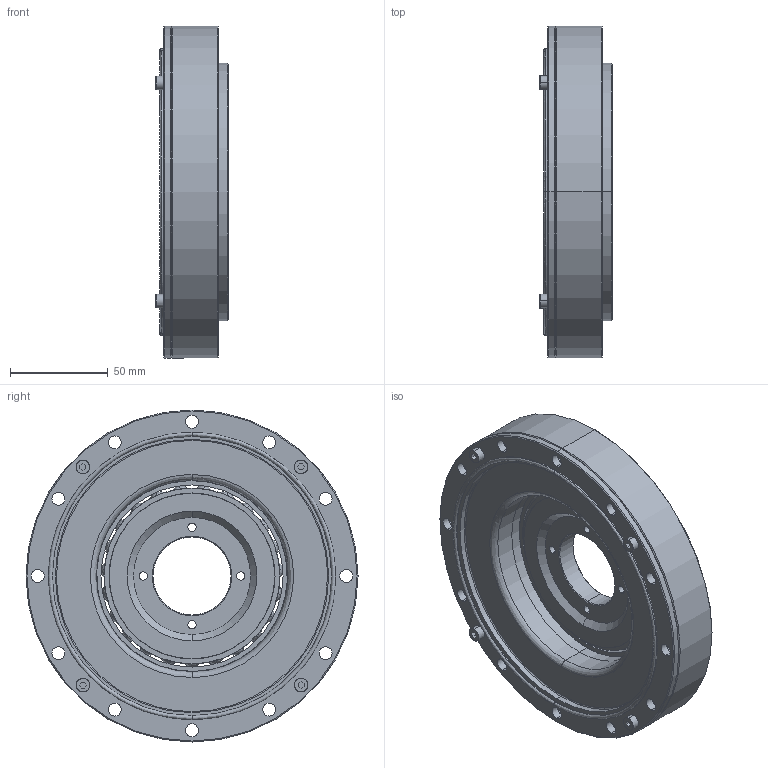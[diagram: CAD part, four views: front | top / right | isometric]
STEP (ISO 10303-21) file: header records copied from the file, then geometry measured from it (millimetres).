
FILE_DESCRIPTION (( 'STEP AP214' ), '1' );
FILE_NAME ('SHD-40-XXX-2SH.STEP', '2023-03-25T06:21:47', ( 'Admin' ), ( '' ), 'SwSTEP 2.0', 'SolidWorks 2018', '' );
FILE_SCHEMA (( 'AUTOMOTIVE_DESIGN' ));
Length unit declared in the file: millimetre
Products named in the file (39): SHD-40-XXX-SH_21; SHD-40-XXX-SH_34; SHD-40-XXX-SH_35; SHD-40-XXX-SH_3; SHD-40-XXX-SH_14; SHD-40-XXX-SH_33; SHD-40-XXX-SH_2; SHD-40-XXX-SH_25; SHD-40-XXX-SH_8; SHD-40-XXX-SH_6; SHD-40-XXX-SH_18; SHD-40-XXX-SH_13; SHD-40-XXX-2SH; SHD-40-XXX-SH_36; SHD-40-XXX-SH_4; SHD-40-XXX-SH_15; SHD-40-XXX-SH_17; SHD-40-XXX-SH_11; SHD-40-XXX-SH; SHD-40-XXX-SH_19; SHD-40-XXX-SH_32; SHD-40-XXX-SH_30; SHD-40-XXX-SH_29; SHD-40-XXX-SH_37; SHD-40-XXX-SH_38; SHD-40-XXX-SH_20; SHD-40-XXX-SH_28; SHD-40-XXX-SH_16; SHD-40-XXX-SH_12; SHD-40-XXX-SH_9; SHD-40-XXX-SH_26; SHD-40-XXX-SH_10; SHD-40-XXX-SH_23; SHD-40-XXX-SH_22; SHD-40-XXX-SH_24; SHD-40-XXX-SH_7; SHD-40-XXX-SH_5; SHD-40-XXX-SH_27; SHD-40-XXX-SH_31
Assembly tree (38 placements, depth 2):
  SHD-40-XXX-2SH
    SHD-40-XXX-SH_37
    SHD-40-XXX-SH_19
    SHD-40-XXX-SH_33
    SHD-40-XXX-SH_36
    SHD-40-XXX-SH_23
    SHD-40-XXX-SH_17
    SHD-40-XXX-SH_2
    SHD-40-XXX-SH_30
    SHD-40-XXX-SH_25
    SHD-40-XXX-SH_31
    SHD-40-XXX-SH_35
    SHD-40-XXX-SH_12
    SHD-40-XXX-SH_8
    SHD-40-XXX-SH_11
    SHD-40-XXX-SH_5
    SHD-40-XXX-SH_22
    SHD-40-XXX-SH_27
    SHD-40-XXX-SH_13
    SHD-40-XXX-SH_28
    SHD-40-XXX-SH_4
    SHD-40-XXX-SH_16
    SHD-40-XXX-SH_26
    SHD-40-XXX-SH_38
    SHD-40-XXX-SH_18
    SHD-40-XXX-SH_32
    SHD-40-XXX-SH_14
    SHD-40-XXX-SH_3
    SHD-40-XXX-SH_34
    SHD-40-XXX-SH_24
    SHD-40-XXX-SH_21
    SHD-40-XXX-SH_7
    SHD-40-XXX-SH_15
    SHD-40-XXX-SH_10
    SHD-40-XXX-SH
    SHD-40-XXX-SH_29
    SHD-40-XXX-SH_6
    SHD-40-XXX-SH_20
    SHD-40-XXX-SH_9
Bounding box: 37 x 170 x 170 mm (x, y, z)
Volume: 425420.6 mm3; surface area: 202367 mm2
Topology: 38 solids, 38 shells, 562 faces, 1410 edges, 832 vertices
Faces by surface type: cylinder 236, plane 116, bspline 108, cone 102
Entity records: 20429 total; most frequent: CARTESIAN_POINT 5625, DIRECTION 3038, ORIENTED_EDGE 2572, AXIS2_PLACEMENT_3D 1291, EDGE_CURVE 1286, VERTEX_POINT 832, CIRCLE 796, EDGE_LOOP 680
